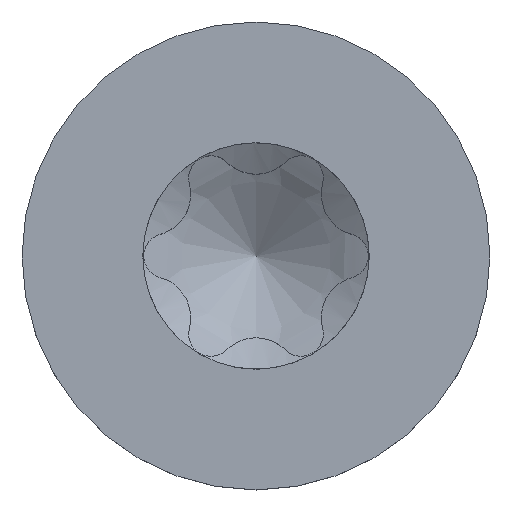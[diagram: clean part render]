
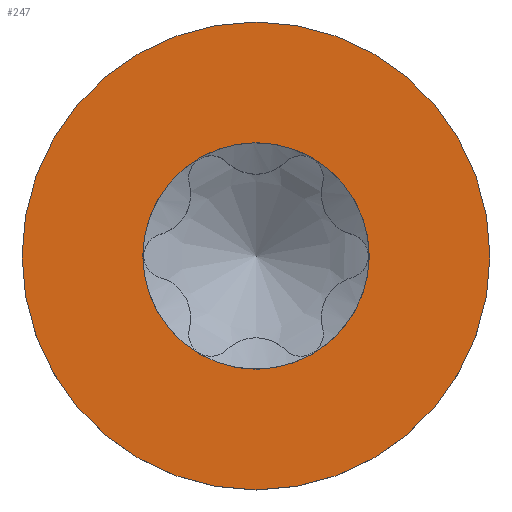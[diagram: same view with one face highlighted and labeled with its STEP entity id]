
A CAD part, top view. The second image highlights one B-rep face of the part: STEP entity #247.
In plain terms, the highlighted planar face has unit normal (0, 0, 1).
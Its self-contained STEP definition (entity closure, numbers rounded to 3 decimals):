
#203=PLANE('',#1282);
#210=FACE_BOUND('',#399,.T.);
#211=FACE_BOUND('',#400,.T.);
#247=ADVANCED_FACE('',(#210,#211),#203,.F.);
#399=EDGE_LOOP('',(#641));
#400=EDGE_LOOP('',(#642));
#641=ORIENTED_EDGE('',*,*,#1119,.F.);
#642=ORIENTED_EDGE('',*,*,#1120,.F.);
#998=VERTEX_POINT('',#2924);
#999=VERTEX_POINT('',#2926);
#1119=EDGE_CURVE('',#998,#998,#1262,.T.);
#1120=EDGE_CURVE('',#999,#999,#1263,.T.);
#1262=CIRCLE('',#1280,1.21);
#1263=CIRCLE('',#1281,2.5);
#1280=AXIS2_PLACEMENT_3D('',#2923,#1331,#1332);
#1281=AXIS2_PLACEMENT_3D('',#2925,#1333,#1334);
#1282=AXIS2_PLACEMENT_3D('',#2927,#1335,#1336);
#1331=DIRECTION('',(0.,0.,1.));
#1332=DIRECTION('',(-1.,0.,0.));
#1333=DIRECTION('',(0.,0.,-1.));
#1334=DIRECTION('',(-1.,0.,0.));
#1335=DIRECTION('',(0.,0.,-1.));
#1336=DIRECTION('',(-1.,0.,0.));
#2923=CARTESIAN_POINT('',(0.,0.,2.065));
#2924=CARTESIAN_POINT('',(-1.21,0.,2.065));
#2925=CARTESIAN_POINT('',(0.,0.,2.065));
#2926=CARTESIAN_POINT('',(-2.5,0.,2.065));
#2927=CARTESIAN_POINT('',(0.,0.,2.065));
